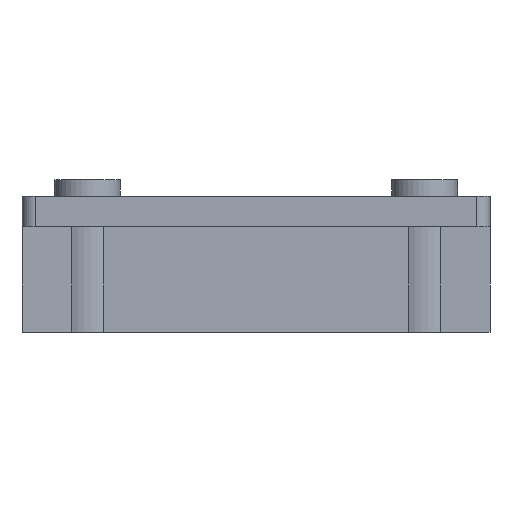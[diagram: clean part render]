
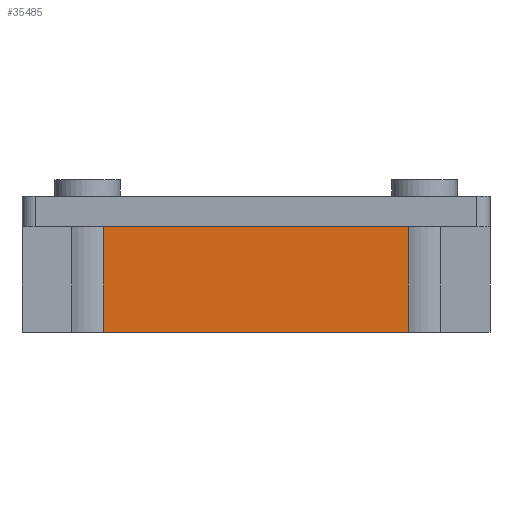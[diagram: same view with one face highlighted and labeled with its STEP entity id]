
A CAD part, left-side view. The second image highlights one B-rep face of the part: STEP entity #35485.
In plain terms, the highlighted planar face has unit normal (-1, 0, 0).
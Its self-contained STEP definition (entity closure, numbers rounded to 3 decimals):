
#44 = PLANE('',#45);
#45 = AXIS2_PLACEMENT_3D('',#46,#47,#48);
#46 = CARTESIAN_POINT('',(0.,0.,-3.55));
#47 = DIRECTION('',(0.,0.,1.));
#48 = DIRECTION('',(1.,0.,-0.));
#210 = PLANE('',#211);
#211 = AXIS2_PLACEMENT_3D('',#212,#213,#214);
#212 = CARTESIAN_POINT('',(-12.,1.95,-11.55));
#213 = DIRECTION('',(-0.,-0.,-1.));
#214 = DIRECTION('',(-1.,0.,0.));
#302 = VERTEX_POINT('',#303);
#303 = CARTESIAN_POINT('',(-15.5,-11.551,-3.55));
#318 = CYLINDRICAL_SURFACE('',#319,3.);
#319 = AXIS2_PLACEMENT_3D('',#320,#321,#322);
#320 = CARTESIAN_POINT('',(-12.75,-12.75,-11.55));
#321 = DIRECTION('',(-0.,-0.,-1.));
#322 = DIRECTION('',(1.,0.,0.));
#330 = EDGE_CURVE('',#331,#302,#333,.T.);
#331 = VERTEX_POINT('',#332);
#332 = CARTESIAN_POINT('',(-15.5,11.551,-3.55));
#333 = SURFACE_CURVE('',#334,(#338,#344),.PCURVE_S1.);
#334 = LINE('',#335,#336);
#335 = CARTESIAN_POINT('',(-15.5,-8.85,-3.55));
#336 = VECTOR('',#337,1.);
#337 = DIRECTION('',(0.,-1.,0.));
#338 = PCURVE('',#44,#339);
#339 = DEFINITIONAL_REPRESENTATION('',(#340),#343);
#340 = B_SPLINE_CURVE_WITH_KNOTS('',1,(#341,#342),.UNSPECIFIED.,.F.,.F.,
  (2,2),(-26.55,8.85),.PIECEWISE_BEZIER_KNOTS.);
#341 = CARTESIAN_POINT('',(-15.5,17.7));
#342 = CARTESIAN_POINT('',(-15.5,-17.7));
#343 = ( GEOMETRIC_REPRESENTATION_CONTEXT(2) 
PARAMETRIC_REPRESENTATION_CONTEXT() REPRESENTATION_CONTEXT('2D SPACE',''
  ) );
#344 = PCURVE('',#345,#350);
#345 = PLANE('',#346);
#346 = AXIS2_PLACEMENT_3D('',#347,#348,#349);
#347 = CARTESIAN_POINT('',(-15.5,-17.7,-11.55));
#348 = DIRECTION('',(-1.,0.,0.));
#349 = DIRECTION('',(0.,1.,0.));
#350 = DEFINITIONAL_REPRESENTATION('',(#351),#354);
#351 = B_SPLINE_CURVE_WITH_KNOTS('',1,(#352,#353),.UNSPECIFIED.,.F.,.F.,
  (2,2),(-26.55,8.85),.PIECEWISE_BEZIER_KNOTS.);
#352 = CARTESIAN_POINT('',(35.4,-8.));
#353 = CARTESIAN_POINT('',(0.,-8.));
#354 = ( GEOMETRIC_REPRESENTATION_CONTEXT(2) 
PARAMETRIC_REPRESENTATION_CONTEXT() REPRESENTATION_CONTEXT('2D SPACE',''
  ) );
#373 = CYLINDRICAL_SURFACE('',#374,3.);
#374 = AXIS2_PLACEMENT_3D('',#375,#376,#377);
#375 = CARTESIAN_POINT('',(-12.75,12.75,-11.55));
#376 = DIRECTION('',(-0.,-0.,-1.));
#377 = DIRECTION('',(1.,0.,0.));
#805 = VERTEX_POINT('',#806);
#806 = CARTESIAN_POINT('',(-15.5,-11.551,-11.55));
#832 = EDGE_CURVE('',#805,#833,#835,.T.);
#833 = VERTEX_POINT('',#834);
#834 = CARTESIAN_POINT('',(-15.5,11.551,-11.55));
#835 = SURFACE_CURVE('',#836,(#840,#847),.PCURVE_S1.);
#836 = LINE('',#837,#838);
#837 = CARTESIAN_POINT('',(-15.5,-17.7,-11.55));
#838 = VECTOR('',#839,1.);
#839 = DIRECTION('',(0.,1.,0.));
#840 = PCURVE('',#210,#841);
#841 = DEFINITIONAL_REPRESENTATION('',(#842),#846);
#842 = LINE('',#843,#844);
#843 = CARTESIAN_POINT('',(3.5,-19.65));
#844 = VECTOR('',#845,1.);
#845 = DIRECTION('',(0.,1.));
#846 = ( GEOMETRIC_REPRESENTATION_CONTEXT(2) 
PARAMETRIC_REPRESENTATION_CONTEXT() REPRESENTATION_CONTEXT('2D SPACE',''
  ) );
#847 = PCURVE('',#345,#848);
#848 = DEFINITIONAL_REPRESENTATION('',(#849),#853);
#849 = LINE('',#850,#851);
#850 = CARTESIAN_POINT('',(0.,0.));
#851 = VECTOR('',#852,1.);
#852 = DIRECTION('',(1.,0.));
#853 = ( GEOMETRIC_REPRESENTATION_CONTEXT(2) 
PARAMETRIC_REPRESENTATION_CONTEXT() REPRESENTATION_CONTEXT('2D SPACE',''
  ) );
#35467 = EDGE_CURVE('',#331,#833,#35468,.T.);
#35468 = SURFACE_CURVE('',#35469,(#35473,#35479),.PCURVE_S1.);
#35469 = LINE('',#35470,#35471);
#35470 = CARTESIAN_POINT('',(-15.5,11.551,-11.55));
#35471 = VECTOR('',#35472,1.);
#35472 = DIRECTION('',(-0.,-0.,-1.));
#35473 = PCURVE('',#373,#35474);
#35474 = DEFINITIONAL_REPRESENTATION('',(#35475),#35478);
#35475 = B_SPLINE_CURVE_WITH_KNOTS('',1,(#35476,#35477),.UNSPECIFIED.,
  .F.,.F.,(2,2),(-8.,0.),
  .PIECEWISE_BEZIER_KNOTS.);
#35476 = CARTESIAN_POINT('',(-3.553,-8.));
#35477 = CARTESIAN_POINT('',(-3.553,0.));
#35478 = ( GEOMETRIC_REPRESENTATION_CONTEXT(2) 
PARAMETRIC_REPRESENTATION_CONTEXT() REPRESENTATION_CONTEXT('2D SPACE',''
  ) );
#35479 = PCURVE('',#345,#35480);
#35480 = DEFINITIONAL_REPRESENTATION('',(#35481),#35484);
#35481 = B_SPLINE_CURVE_WITH_KNOTS('',1,(#35482,#35483),.UNSPECIFIED.,
  .F.,.F.,(2,2),(-8.,0.),
  .PIECEWISE_BEZIER_KNOTS.);
#35482 = CARTESIAN_POINT('',(29.251,-8.));
#35483 = CARTESIAN_POINT('',(29.251,0.));
#35484 = ( GEOMETRIC_REPRESENTATION_CONTEXT(2) 
PARAMETRIC_REPRESENTATION_CONTEXT() REPRESENTATION_CONTEXT('2D SPACE',''
  ) );
#35485 = ADVANCED_FACE('',(#35486),#345,.T.);
#35486 = FACE_BOUND('',#35487,.T.);
#35487 = EDGE_LOOP('',(#35488,#35489,#35508,#35509));
#35488 = ORIENTED_EDGE('',*,*,#832,.F.);
#35489 = ORIENTED_EDGE('',*,*,#35490,.F.);
#35490 = EDGE_CURVE('',#302,#805,#35491,.T.);
#35491 = SURFACE_CURVE('',#35492,(#35496,#35502),.PCURVE_S1.);
#35492 = LINE('',#35493,#35494);
#35493 = CARTESIAN_POINT('',(-15.5,-11.551,-11.55));
#35494 = VECTOR('',#35495,1.);
#35495 = DIRECTION('',(-0.,-0.,-1.));
#35496 = PCURVE('',#345,#35497);
#35497 = DEFINITIONAL_REPRESENTATION('',(#35498),#35501);
#35498 = B_SPLINE_CURVE_WITH_KNOTS('',1,(#35499,#35500),.UNSPECIFIED.,
  .F.,.F.,(2,2),(-8.,0.),
  .PIECEWISE_BEZIER_KNOTS.);
#35499 = CARTESIAN_POINT('',(6.149,-8.));
#35500 = CARTESIAN_POINT('',(6.149,0.));
#35501 = ( GEOMETRIC_REPRESENTATION_CONTEXT(2) 
PARAMETRIC_REPRESENTATION_CONTEXT() REPRESENTATION_CONTEXT('2D SPACE',''
  ) );
#35502 = PCURVE('',#318,#35503);
#35503 = DEFINITIONAL_REPRESENTATION('',(#35504),#35507);
#35504 = B_SPLINE_CURVE_WITH_KNOTS('',1,(#35505,#35506),.UNSPECIFIED.,
  .F.,.F.,(2,2),(-8.,0.),
  .PIECEWISE_BEZIER_KNOTS.);
#35505 = CARTESIAN_POINT('',(-2.73,-8.));
#35506 = CARTESIAN_POINT('',(-2.73,0.));
#35507 = ( GEOMETRIC_REPRESENTATION_CONTEXT(2) 
PARAMETRIC_REPRESENTATION_CONTEXT() REPRESENTATION_CONTEXT('2D SPACE',''
  ) );
#35508 = ORIENTED_EDGE('',*,*,#330,.F.);
#35509 = ORIENTED_EDGE('',*,*,#35467,.T.);
